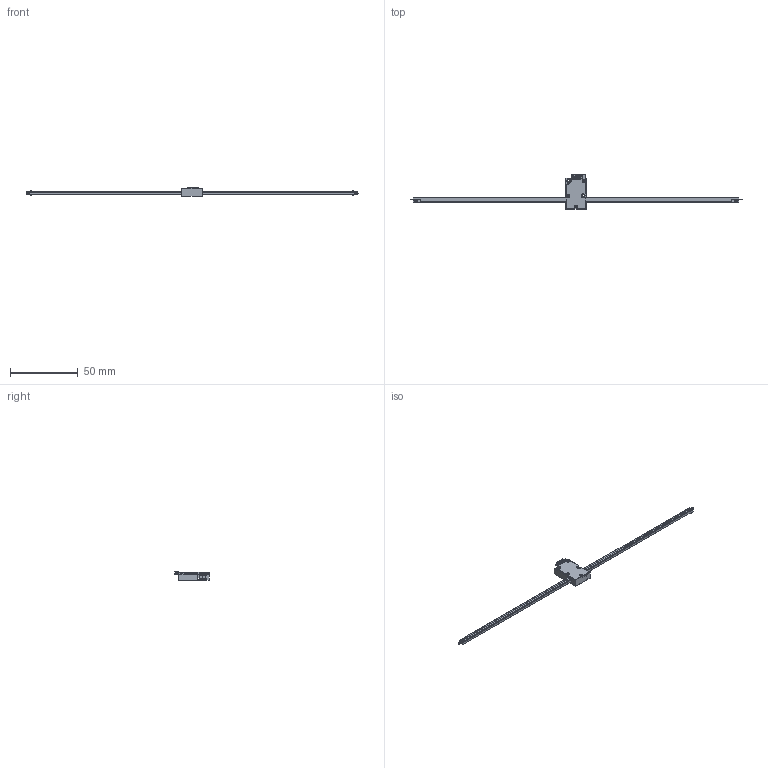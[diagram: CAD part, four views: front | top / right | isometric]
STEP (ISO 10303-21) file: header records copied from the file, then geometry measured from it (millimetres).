
FILE_DESCRIPTION(/* description */ (''),/* implementation_level */ '2;1');
FILE_NAME(/* name */ 'XLA_1_240_assy_F8.stp',/* time_stamp */ '2024-02-02T14:42:30+01:00',/* author */ (''),/* organization */ (''),/* preprocessor_version */ 'ST-DEVELOPER v16',/* originating_system */ 'SIEMENS PLM Software NX 10.0',/* authorisation */ '');
FILE_SCHEMA (('AUTOMOTIVE_DESIGN { 1 0 10303 214 3 1 1 1 }'));
Length unit declared in the file: millimetre
Products named in the file (13): FH33-12S-0.5SH; magnet_limit_HKCM_9962-5633; spiraalspanbus_D1_L4; XLA_1_tractielat_shim_240_C; linear_encoder_230; ceramic_ruler_W2_T1_L240; XLA_1_cover_D; PACK-SMIB1.4-3_stp; bearing; XLA_1_body_F5; XLA_1_top_PCB_D_MODEL; XLA_1_tractielat_240_D; XLA_1_240_assy_F8
Assembly tree (19 placements, depth 3):
  XLA_1_240_assy_F8
    XLA_1_body_F5
    XLA_1_tractielat_240_D
      ceramic_ruler_W2_T1_L240
      linear_encoder_230
      XLA_1_tractielat_shim_240_C
      spiraalspanbus_D1_L4  x2
      magnet_limit_HKCM_9962-5633  x2
    bearing  x4
    PACK-SMIB1.4-3_stp  x3
    XLA_1_cover_D
    XLA_1_top_PCB_D_MODEL
      FH33-12S-0.5SH
Bounding box: 245 x 25.45 x 6.45 mm (x, y, z)
Volume: 3275.9 mm3; surface area: 8921.1 mm2
Topology: 19 solids, 19 shells, 782 faces, 2154 edges, 1420 vertices
Faces by surface type: plane 577, cylinder 153, cone 36, torus 13, bspline 3
Full cylindrical faces by diameter (mm): 0.5 x2, 1 x8, 1.1 x3, 1.4 x5, 1.5 x9, 1.6 x2, 2 x3, 2.05 x3, 4 x4, 5.1 x4, 5.4 x2
Entity records: 22594 total; most frequent: CARTESIAN_POINT 4094, ORIENTED_EDGE 3776, DIRECTION 3564, EDGE_CURVE 1888, LINE 1580, VECTOR 1580, VERTEX_POINT 1278, AXIS2_PLACEMENT_3D 992
